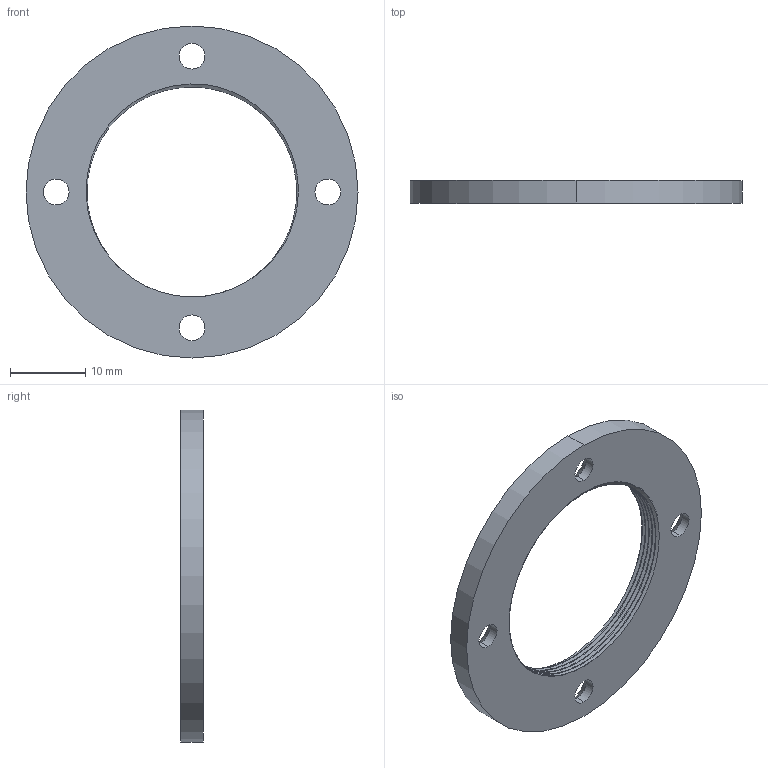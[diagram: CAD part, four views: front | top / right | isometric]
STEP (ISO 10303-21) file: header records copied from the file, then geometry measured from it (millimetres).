
FILE_DESCRIPTION (( 'STEP AP203' ), '1' );
FILE_NAME ('OPT_GRISM_0009_X [2026-04-19].STEP', '2026-05-03T16:28:28', ( '' ), ( '' ), 'SwSTEP 2.0', 'SolidWorks 2014', '' );
FILE_SCHEMA (( 'CONFIG_CONTROL_DESIGN' ));
Length unit declared in the file: millimetre
Products named in the file (1): OPT_GRISM_0009_X [2026-04-19]
Bounding box: 44 x 3 x 44 mm (x, y, z)
Volume: 2500.9 mm3; surface area: 2720.5 mm2
Topology: 1 solids, 1 shells, 33 faces, 85 edges, 54 vertices
Faces by surface type: cylinder 21, cone 8, plane 2, bspline 2
Entity records: 1849 total; most frequent: CARTESIAN_POINT 1001, ORIENTED_EDGE 170, DIRECTION 154, EDGE_CURVE 85, AXIS2_PLACEMENT_3D 63, VERTEX_POINT 54, EDGE_LOOP 43, FACE_OUTER_BOUND 33
